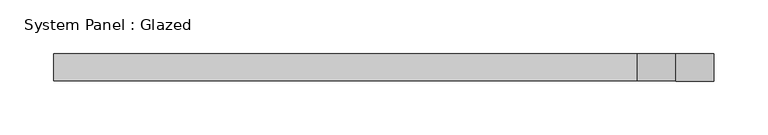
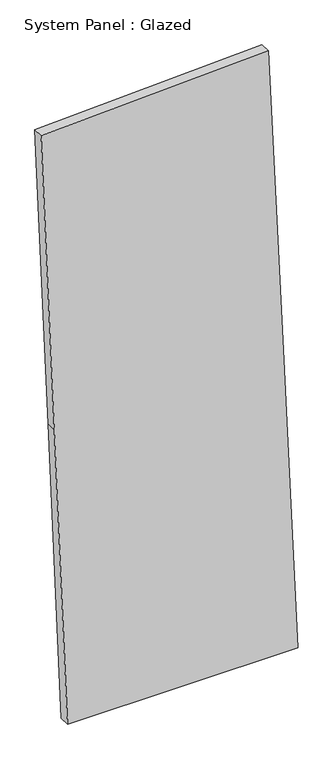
"""IFC4 building model written with IfcOpenShell, lengths in millimetres: plate geometry, System Panel : Glazed."""

from ifc_helpers import new_model, si_unit, frame, origin, place, context, project, spatial, polyline, outline, extrude, source, transform, mapped, element, save


def system_panel_glazed_662d3125(model_context):
    return source(origin(), model_context, "Body", "SweptSolid", [
        extrude(outline(polyline([(0.0, -244.3089037), (0.0, 307.5913404), (766.0461333, 271.9937856), (1533.6716112, 236.3228398), (1509.6232363, -307.5913404), (755.426295, -275.9758889), (0.0, -244.3089037)])), frame((0.0, -44.45, 0.0), z_axis=(0.0, 1.0, 0.0), x_axis=(0.0, 0.0, 1.0)), (0.0, 0.0, 1.0), 25.4),
    ])


if __name__ == "__main__":
    model = new_model("IFC4")
    model_context = context("Model", 3, world=origin())
    ifc_project = project(units=[si_unit("LENGTHUNIT", "METRE", prefix="MILLI")], contexts=[model_context])
    site = spatial("IfcSite", under=ifc_project)
    building = spatial("IfcBuilding", under=site)
    placement = place(None, origin())
    system_panel_glazed_shape = system_panel_glazed_662d3125(model_context)
    element("IfcPlate", 1, ObjectType="System Panel : Glazed", at=placement, inside=building, context=model_context, shape_type="MappedRepresentation", body=[
        mapped(system_panel_glazed_shape, transform((0.0, 0.0, 0.0), x_axis=(1.0, 0.0, 0.0), y_axis=(0.0, 1.0, 0.0), z_axis=(0.0, 0.0, 1.0))),
    ])
    save(model, "model.ifc")
